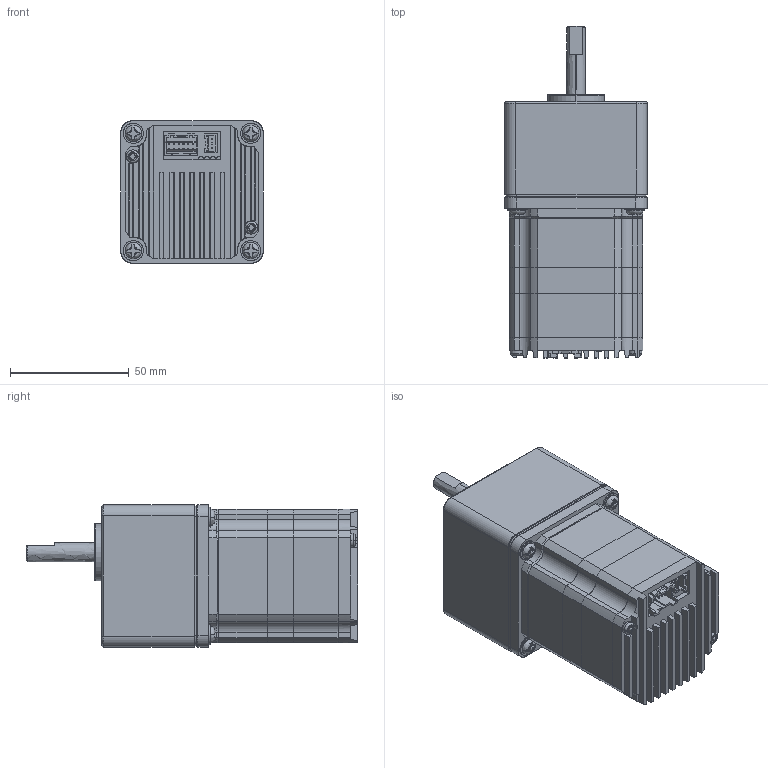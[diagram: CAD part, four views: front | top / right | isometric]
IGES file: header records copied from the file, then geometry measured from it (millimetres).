
Start section: SolidWorks IGES file using analytic representation for surfaces
Global section: file name: \\192.168.17.31\sw_kari\7677\ステップ\SSA ギヤ付\□56\SSA-VR-56D1SD.IGS; native system: SolidWorks 2009; preprocessor: SolidWorks 2009; author: user0013; date: 120229.101938; units: millimetre
Bounding box: 60 x 140 x 60 mm (x, y, z)
Surface area: 76379.3 mm2 (no closed solid volume)
Topology: 0 solids, 0 shells, 1181 faces, 11231 edges, 11225 vertices
Faces by surface type: bspline 782, revolution 399
